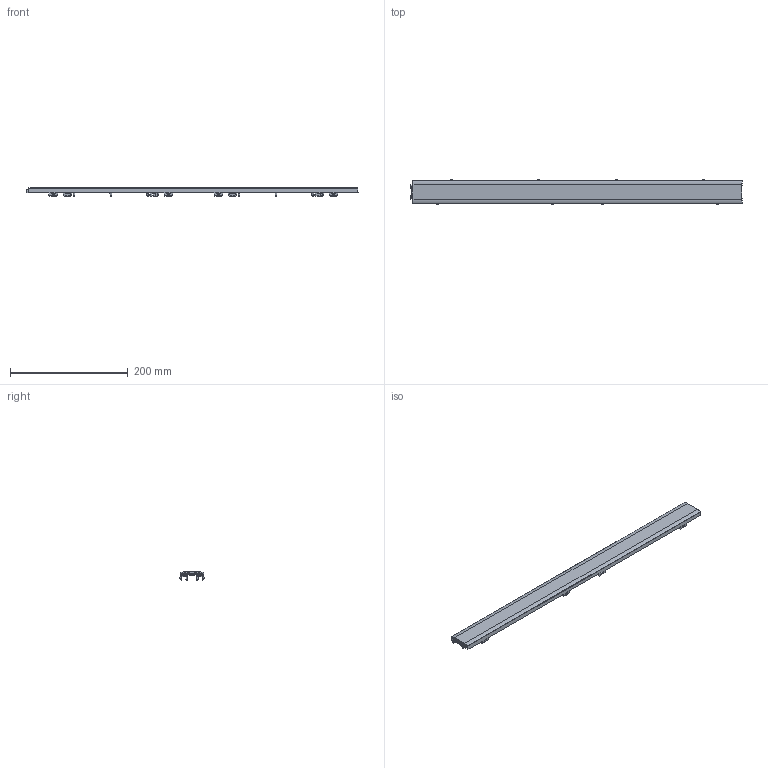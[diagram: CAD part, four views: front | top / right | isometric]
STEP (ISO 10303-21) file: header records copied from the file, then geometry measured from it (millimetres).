
FILE_DESCRIPTION(/* description */ ('Unknown'),/* implementation_level */ '2;1');
FILE_NAME(/* name */ '021YG0CY03',/* time_stamp */ '2022-10-28T07:22:22+02:00',/* author */ ('Unknown'),/* organization */ ('Unknown'),/* preprocessor_version */ 'ST-DEVELOPER v16.7',/* originating_system */ 'Solid Edge',/* authorisation */ 'Unknown');
FILE_SCHEMA (('AUTOMOTIVE_DESIGN {1 0 10303 214 3 1 1}'));
Products named in the file (1): 021-G0C-03
Bounding box: 563.2 x 42.4 x 14.39 mm (x, y, z)
Volume: 77259.6 mm3; surface area: 67802.6 mm2
Topology: 1 solids, 1 shells, 1779 faces, 4452 edges, 2707 vertices
Faces by surface type: plane 619, cylinder 377, cone 312, bspline 293, torus 142, sphere 36
Full cylindrical faces by diameter (mm): 11.666 x46
Entity records: 53840 total; most frequent: CARTESIAN_POINT 16726, ORIENTED_EDGE 7544, DIRECTION 7111, EDGE_CURVE 3772, AXIS2_PLACEMENT_3D 2845, VERTEX_POINT 2569, EDGE_LOOP 2357, FACE_BOUND 2357
